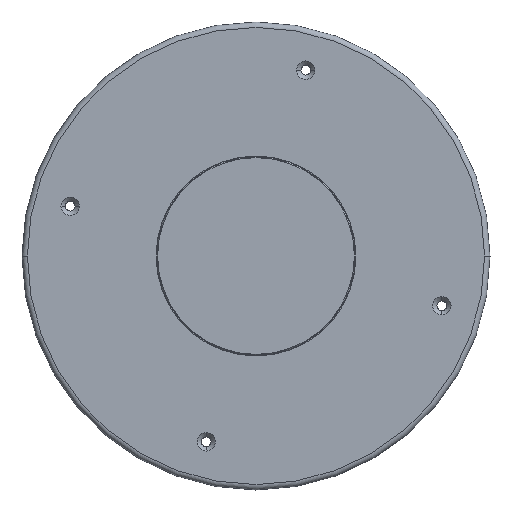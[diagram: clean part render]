
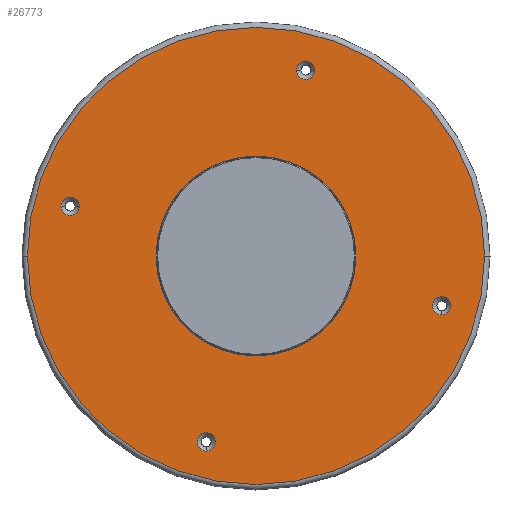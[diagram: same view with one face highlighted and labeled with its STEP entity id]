
A CAD part, left-side view. The second image highlights one B-rep face of the part: STEP entity #26773.
In plain terms, the highlighted planar face has unit normal (-1, 0, 0).
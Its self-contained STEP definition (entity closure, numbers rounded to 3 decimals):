
#442 = EDGE_CURVE ( 'NONE', #10344, #5491, #6878, .T. ) ;
#903 = EDGE_CURVE ( 'NONE', #16841, #7722, #11636, .T. ) ;
#1004 = CIRCLE ( 'NONE', #18028, 4.25 ) ;
#1830 = EDGE_CURVE ( 'NONE', #5491, #10344, #18216, .T. ) ;
#2135 = FACE_BOUND ( 'NONE', #9997, .T. ) ;
#2340 = EDGE_CURVE ( 'NONE', #22398, #9162, #30257, .T. ) ;
#2746 = CIRCLE ( 'NONE', #27723, 4.25 ) ;
#2888 = ORIENTED_EDGE ( 'NONE', *, *, #14677, .T. ) ;
#2975 = FACE_OUTER_BOUND ( 'NONE', #16611, .T. ) ;
#3023 = AXIS2_PLACEMENT_3D ( 'NONE', #22722, #28415, #25624 ) ;
#3177 = CARTESIAN_POINT ( 'NONE',  ( -45., 0., 0. ) ) ;
#3759 = CARTESIAN_POINT ( 'NONE',  ( -45., -85.967, -23.035 ) ) ;
#4036 = CARTESIAN_POINT ( 'NONE',  ( -45., 23.035, -81.717 ) ) ;
#4107 = VERTEX_POINT ( 'NONE', #32448 ) ;
#4225 = CARTESIAN_POINT ( 'NONE',  ( -45., -27.285, 85.967 ) ) ;
#4388 = DIRECTION ( 'NONE',  ( 0., -1., 0. ) ) ;
#4453 = DIRECTION ( 'NONE',  ( 0., 0., 1. ) ) ;
#4844 = CARTESIAN_POINT ( 'NONE',  ( -45., -85.967, -27.285 ) ) ;
#5491 = VERTEX_POINT ( 'NONE', #11255 ) ;
#5883 = DIRECTION ( 'NONE',  ( 0., 0., 1. ) ) ;
#5930 = DIRECTION ( 'NONE',  ( -1., 0., 0. ) ) ;
#6045 = AXIS2_PLACEMENT_3D ( 'NONE', #23903, #13073, #31641 ) ;
#6293 = DIRECTION ( 'NONE',  ( 1., 0., 0. ) ) ;
#6390 = EDGE_CURVE ( 'NONE', #4107, #32694, #2746, .T. ) ;
#6878 = CIRCLE ( 'NONE', #26007, 46.25 ) ;
#6934 = AXIS2_PLACEMENT_3D ( 'NONE', #32137, #21604, #21252 ) ;
#7345 = EDGE_CURVE ( 'NONE', #33246, #10990, #26741, .T. ) ;
#7500 = ORIENTED_EDGE ( 'NONE', *, *, #22622, .T. ) ;
#7722 = VERTEX_POINT ( 'NONE', #11718 ) ;
#7868 = ORIENTED_EDGE ( 'NONE', *, *, #442, .T. ) ;
#8084 = CARTESIAN_POINT ( 'NONE',  ( -45., 46.25, 0. ) ) ;
#8264 = CARTESIAN_POINT ( 'NONE',  ( -45., -85.967, -18.785 ) ) ;
#8563 = DIRECTION ( 'NONE',  ( 0., -1., 0. ) ) ;
#8587 = DIRECTION ( 'NONE',  ( 0., 0., 1. ) ) ;
#9052 = CARTESIAN_POINT ( 'NONE',  ( -45., 105.75, 0. ) ) ;
#9162 = VERTEX_POINT ( 'NONE', #14972 ) ;
#9997 = EDGE_LOOP ( 'NONE', ( #30871, #20751 ) ) ;
#10220 = CARTESIAN_POINT ( 'NONE',  ( -45., 23.035, -85.967 ) ) ;
#10344 = VERTEX_POINT ( 'NONE', #8084 ) ;
#10443 = EDGE_LOOP ( 'NONE', ( #7500, #27683 ) ) ;
#10862 = CARTESIAN_POINT ( 'NONE',  ( -45., 0., 0. ) ) ;
#10975 = PLANE ( 'NONE',  #20924 ) ;
#10990 = VERTEX_POINT ( 'NONE', #9052 ) ;
#11255 = CARTESIAN_POINT ( 'NONE',  ( -45., -46.25, 0. ) ) ;
#11636 = CIRCLE ( 'NONE', #6045, 4.25 ) ;
#11718 = CARTESIAN_POINT ( 'NONE',  ( -45., -18.785, 85.967 ) ) ;
#12613 = DIRECTION ( 'NONE',  ( 0., -1., 0. ) ) ;
#13073 = DIRECTION ( 'NONE',  ( 1., 0., 0. ) ) ;
#13722 = CARTESIAN_POINT ( 'NONE',  ( -45., -85.967, -23.035 ) ) ;
#13766 = VERTEX_POINT ( 'NONE', #8264 ) ;
#13790 = CARTESIAN_POINT ( 'NONE',  ( -45., -105.75, 0. ) ) ;
#14258 = DIRECTION ( 'NONE',  ( 0., 0., 1. ) ) ;
#14529 = DIRECTION ( 'NONE',  ( 1., 0., 0. ) ) ;
#14677 = EDGE_CURVE ( 'NONE', #9162, #22398, #26515, .T. ) ;
#14972 = CARTESIAN_POINT ( 'NONE',  ( -45., 81.717, 23.035 ) ) ;
#15317 = DIRECTION ( 'NONE',  ( -1., 0., 0. ) ) ;
#15475 = DIRECTION ( 'NONE',  ( 1., 0., 0. ) ) ;
#16043 = DIRECTION ( 'NONE',  ( -1., 0., 0. ) ) ;
#16327 = CARTESIAN_POINT ( 'NONE',  ( -45., 90.217, 23.035 ) ) ;
#16611 = EDGE_LOOP ( 'NONE', ( #21016, #20159 ) ) ;
#16841 = VERTEX_POINT ( 'NONE', #4225 ) ;
#17023 = FACE_BOUND ( 'NONE', #29395, .T. ) ;
#17151 = AXIS2_PLACEMENT_3D ( 'NONE', #10862, #14529, #20536 ) ;
#17514 = CARTESIAN_POINT ( 'NONE',  ( -45., -23.035, 85.967 ) ) ;
#18028 = AXIS2_PLACEMENT_3D ( 'NONE', #3759, #6293, #14258 ) ;
#18216 = CIRCLE ( 'NONE', #17151, 46.25 ) ;
#18224 = CARTESIAN_POINT ( 'NONE',  ( -45., 0., 0. ) ) ;
#18593 = AXIS2_PLACEMENT_3D ( 'NONE', #17514, #30867, #12613 ) ;
#19124 = ORIENTED_EDGE ( 'NONE', *, *, #26876, .T. ) ;
#19158 = AXIS2_PLACEMENT_3D ( 'NONE', #3177, #5930, #8563 ) ;
#19894 = VERTEX_POINT ( 'NONE', #4844 ) ;
#20159 = ORIENTED_EDGE ( 'NONE', *, *, #22381, .T. ) ;
#20536 = DIRECTION ( 'NONE',  ( 0., -1., 0. ) ) ;
#20751 = ORIENTED_EDGE ( 'NONE', *, *, #30244, .T. ) ;
#20924 = AXIS2_PLACEMENT_3D ( 'NONE', #32166, #16043, #26419 ) ;
#21016 = ORIENTED_EDGE ( 'NONE', *, *, #7345, .T. ) ;
#21252 = DIRECTION ( 'NONE',  ( 0., -1., 0. ) ) ;
#21460 = AXIS2_PLACEMENT_3D ( 'NONE', #18224, #15317, #33832 ) ;
#21604 = DIRECTION ( 'NONE',  ( 1., 0., 0. ) ) ;
#21974 = EDGE_CURVE ( 'NONE', #13766, #19894, #1004, .T. ) ;
#21985 = DIRECTION ( 'NONE',  ( 1., 0., 0. ) ) ;
#22099 = CIRCLE ( 'NONE', #19158, 105.75 ) ;
#22381 = EDGE_CURVE ( 'NONE', #10990, #33246, #22099, .T. ) ;
#22398 = VERTEX_POINT ( 'NONE', #16327 ) ;
#22622 = EDGE_CURVE ( 'NONE', #32694, #4107, #34045, .T. ) ;
#22722 = CARTESIAN_POINT ( 'NONE',  ( -45., 85.967, 23.035 ) ) ;
#23212 = EDGE_LOOP ( 'NONE', ( #33101, #7868 ) ) ;
#23861 = AXIS2_PLACEMENT_3D ( 'NONE', #13722, #21985, #5883 ) ;
#23903 = CARTESIAN_POINT ( 'NONE',  ( -45., -23.035, 85.967 ) ) ;
#24510 = DIRECTION ( 'NONE',  ( 1., 0., 0. ) ) ;
#24560 = FACE_BOUND ( 'NONE', #10443, .T. ) ;
#25624 = DIRECTION ( 'NONE',  ( 0., -1., 0. ) ) ;
#25783 = FACE_BOUND ( 'NONE', #23212, .T. ) ;
#26007 = AXIS2_PLACEMENT_3D ( 'NONE', #28743, #15475, #4388 ) ;
#26419 = DIRECTION ( 'NONE',  ( 0., -1., 0. ) ) ;
#26515 = CIRCLE ( 'NONE', #3023, 4.25 ) ;
#26741 = CIRCLE ( 'NONE', #21460, 105.75 ) ;
#26773 = ADVANCED_FACE ( 'NONE', ( #24560, #2135, #29090, #17023, #2975, #25783 ), #10975, .T. ) ;
#26876 = EDGE_CURVE ( 'NONE', #19894, #13766, #32779, .T. ) ;
#27082 = CARTESIAN_POINT ( 'NONE',  ( -45., 23.035, -85.967 ) ) ;
#27683 = ORIENTED_EDGE ( 'NONE', *, *, #6390, .T. ) ;
#27723 = AXIS2_PLACEMENT_3D ( 'NONE', #10220, #28808, #4453 ) ;
#28083 = AXIS2_PLACEMENT_3D ( 'NONE', #27082, #24510, #8587 ) ;
#28415 = DIRECTION ( 'NONE',  ( 1., 0., 0. ) ) ;
#28743 = CARTESIAN_POINT ( 'NONE',  ( -45., 0., 0. ) ) ;
#28808 = DIRECTION ( 'NONE',  ( 1., 0., 0. ) ) ;
#29090 = FACE_BOUND ( 'NONE', #30733, .T. ) ;
#29395 = EDGE_LOOP ( 'NONE', ( #2888, #30220 ) ) ;
#30220 = ORIENTED_EDGE ( 'NONE', *, *, #2340, .T. ) ;
#30244 = EDGE_CURVE ( 'NONE', #7722, #16841, #33734, .T. ) ;
#30257 = CIRCLE ( 'NONE', #6934, 4.25 ) ;
#30733 = EDGE_LOOP ( 'NONE', ( #34205, #19124 ) ) ;
#30867 = DIRECTION ( 'NONE',  ( 1., 0., 0. ) ) ;
#30871 = ORIENTED_EDGE ( 'NONE', *, *, #903, .T. ) ;
#31641 = DIRECTION ( 'NONE',  ( 0., -1., 0. ) ) ;
#32137 = CARTESIAN_POINT ( 'NONE',  ( -45., 85.967, 23.035 ) ) ;
#32166 = CARTESIAN_POINT ( 'NONE',  ( -45., -36.693, 28.155 ) ) ;
#32448 = CARTESIAN_POINT ( 'NONE',  ( -45., 23.035, -90.217 ) ) ;
#32694 = VERTEX_POINT ( 'NONE', #4036 ) ;
#32779 = CIRCLE ( 'NONE', #23861, 4.25 ) ;
#33101 = ORIENTED_EDGE ( 'NONE', *, *, #1830, .T. ) ;
#33246 = VERTEX_POINT ( 'NONE', #13790 ) ;
#33734 = CIRCLE ( 'NONE', #18593, 4.25 ) ;
#33832 = DIRECTION ( 'NONE',  ( 0., -1., 0. ) ) ;
#34045 = CIRCLE ( 'NONE', #28083, 4.25 ) ;
#34205 = ORIENTED_EDGE ( 'NONE', *, *, #21974, .T. ) ;
